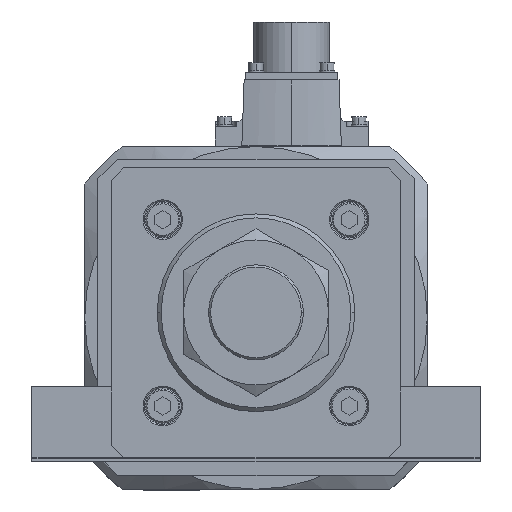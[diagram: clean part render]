
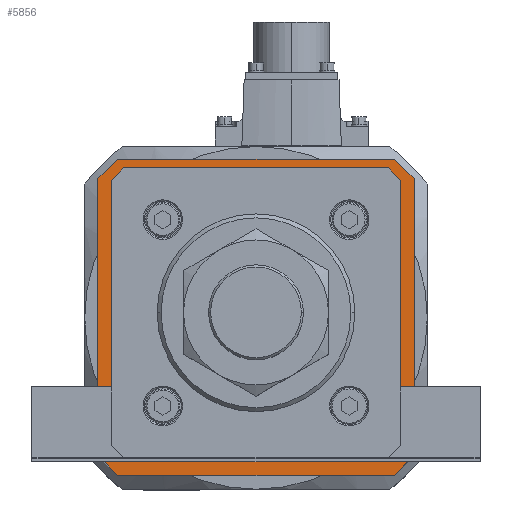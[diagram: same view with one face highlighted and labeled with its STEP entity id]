
A CAD part, top view. The second image highlights one B-rep face of the part: STEP entity #5856.
In plain terms, the highlighted planar face has unit normal (0, 0, 1).
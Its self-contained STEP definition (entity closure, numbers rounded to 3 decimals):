
#506 = EDGE_CURVE ( 'NONE', #34887, #1520, #12870, .T. ) ;
#641 = CARTESIAN_POINT ( 'NONE',  ( -53.5, 49.8, -119. ) ) ;
#817 = CARTESIAN_POINT ( 'NONE',  ( 49.593, 53.5, -119. ) ) ;
#1520 = VERTEX_POINT ( 'NONE', #9403 ) ;
#1736 = EDGE_CURVE ( 'NONE', #15058, #17121, #15486, .T. ) ;
#1876 = CARTESIAN_POINT ( 'NONE',  ( 60., -52.5, -119. ) ) ;
#2074 = VERTEX_POINT ( 'NONE', #33497 ) ;
#2153 = CARTESIAN_POINT ( 'NONE',  ( 49.593, -53.5, -119. ) ) ;
#2263 = LINE ( 'NONE', #15033, #15498 ) ;
#2697 = EDGE_CURVE ( 'NONE', #18162, #6041, #25908, .T. ) ;
#3153 = CARTESIAN_POINT ( 'NONE',  ( -52.5, 60., -119. ) ) ;
#3295 = EDGE_CURVE ( 'NONE', #6041, #21955, #34930, .T. ) ;
#3377 = CARTESIAN_POINT ( 'NONE',  ( 53.5, 49.593, -119. ) ) ;
#3651 = EDGE_CURVE ( 'NONE', #25057, #4762, #23264, .T. ) ;
#3952 = LINE ( 'NONE', #27964, #24486 ) ;
#4386 = EDGE_CURVE ( 'NONE', #34499, #2074, #23231, .T. ) ;
#4513 = LINE ( 'NONE', #11940, #34589 ) ;
#4648 = EDGE_LOOP ( 'NONE', ( #4942, #9744, #6234, #7280, #34024, #11029, #26571, #26590 ) ) ;
#4762 = VERTEX_POINT ( 'NONE', #3153 ) ;
#4900 = DIRECTION ( 'NONE',  ( -1., 0., 0. ) ) ;
#4942 = ORIENTED_EDGE ( 'NONE', *, *, #27240, .T. ) ;
#5138 = VECTOR ( 'NONE', #11739, 1000. ) ;
#5355 = CARTESIAN_POINT ( 'NONE',  ( 52.5, 60., -119. ) ) ;
#5764 = DIRECTION ( 'NONE',  ( -0.707, 0.707, 0. ) ) ;
#5856 = ADVANCED_FACE ( 'NONE', ( #12712, #31808 ), #22538, .T. ) ;
#5955 = DIRECTION ( 'NONE',  ( 0., 1., 0. ) ) ;
#6041 = VERTEX_POINT ( 'NONE', #3377 ) ;
#6074 = LINE ( 'NONE', #641, #27944 ) ;
#6234 = ORIENTED_EDGE ( 'NONE', *, *, #3295, .T. ) ;
#6451 = VERTEX_POINT ( 'NONE', #29545 ) ;
#6697 = CARTESIAN_POINT ( 'NONE',  ( 60., 52.5, -119. ) ) ;
#7280 = ORIENTED_EDGE ( 'NONE', *, *, #22179, .T. ) ;
#7783 = DIRECTION ( 'NONE',  ( 0., 0., 1. ) ) ;
#7833 = CARTESIAN_POINT ( 'NONE',  ( -53.5, 49.593, -119. ) ) ;
#8073 = DIRECTION ( 'NONE',  ( 1., 0., 0. ) ) ;
#9168 = VECTOR ( 'NONE', #26868, 1000. ) ;
#9403 = CARTESIAN_POINT ( 'NONE',  ( -60., -52.5, -119. ) ) ;
#9744 = ORIENTED_EDGE ( 'NONE', *, *, #2697, .T. ) ;
#9981 = VERTEX_POINT ( 'NONE', #35765 ) ;
#9994 = VECTOR ( 'NONE', #18880, 1000. ) ;
#10032 = VECTOR ( 'NONE', #18535, 1000. ) ;
#10075 = CARTESIAN_POINT ( 'NONE',  ( 53.5, -49.8, -119. ) ) ;
#10144 = DIRECTION ( 'NONE',  ( 0.707, -0.707, 0. ) ) ;
#10234 = VECTOR ( 'NONE', #24164, 1000. ) ;
#11029 = ORIENTED_EDGE ( 'NONE', *, *, #24365, .T. ) ;
#11203 = LINE ( 'NONE', #33245, #20758 ) ;
#11641 = CARTESIAN_POINT ( 'NONE',  ( 53.5, -49.593, -119. ) ) ;
#11739 = DIRECTION ( 'NONE',  ( -0.707, 0.707, 0. ) ) ;
#11940 = CARTESIAN_POINT ( 'NONE',  ( 49.8, 53.5, -119. ) ) ;
#12712 = FACE_BOUND ( 'NONE', #4648, .T. ) ;
#12870 = LINE ( 'NONE', #31758, #15595 ) ;
#12941 = ORIENTED_EDGE ( 'NONE', *, *, #3651, .F. ) ;
#13082 = DIRECTION ( 'NONE',  ( 0., -1., 0. ) ) ;
#13111 = EDGE_LOOP ( 'NONE', ( #26775, #12941, #35735, #31341, #18636, #28144, #36238, #31431 ) ) ;
#14094 = VECTOR ( 'NONE', #8073, 1000. ) ;
#14698 = EDGE_CURVE ( 'NONE', #21756, #18085, #6074, .T. ) ;
#15033 = CARTESIAN_POINT ( 'NONE',  ( -60., 52.5, -119. ) ) ;
#15058 = VERTEX_POINT ( 'NONE', #1876 ) ;
#15486 = LINE ( 'NONE', #35707, #10032 ) ;
#15498 = VECTOR ( 'NONE', #5955, 1000. ) ;
#15595 = VECTOR ( 'NONE', #5764, 1000. ) ;
#15719 = VECTOR ( 'NONE', #30886, 1000. ) ;
#15950 = CARTESIAN_POINT ( 'NONE',  ( 53.646, 49.446, -119. ) ) ;
#16363 = CARTESIAN_POINT ( 'NONE',  ( -60., 52.5, -119. ) ) ;
#16750 = AXIS2_PLACEMENT_3D ( 'NONE', #36813, #7783, #33596 ) ;
#16776 = CARTESIAN_POINT ( 'NONE',  ( -49.446, 53.646, -119. ) ) ;
#17121 = VERTEX_POINT ( 'NONE', #23688 ) ;
#18085 = VERTEX_POINT ( 'NONE', #7833 ) ;
#18162 = VERTEX_POINT ( 'NONE', #817 ) ;
#18535 = DIRECTION ( 'NONE',  ( -0.707, -0.707, 0. ) ) ;
#18636 = ORIENTED_EDGE ( 'NONE', *, *, #29743, .F. ) ;
#18748 = DIRECTION ( 'NONE',  ( -0.707, -0.707, 0. ) ) ;
#18880 = DIRECTION ( 'NONE',  ( 0.707, -0.707, 0. ) ) ;
#19240 = EDGE_CURVE ( 'NONE', #1520, #25057, #2263, .T. ) ;
#20203 = CARTESIAN_POINT ( 'NONE',  ( 60., 52.5, -119. ) ) ;
#20621 = CARTESIAN_POINT ( 'NONE',  ( -53.646, -49.446, -119. ) ) ;
#20758 = VECTOR ( 'NONE', #18748, 1000. ) ;
#20995 = CARTESIAN_POINT ( 'NONE',  ( -52.5, 60., -119. ) ) ;
#21142 = LINE ( 'NONE', #6697, #10234 ) ;
#21147 = DIRECTION ( 'NONE',  ( 0., 1., 0. ) ) ;
#21756 = VERTEX_POINT ( 'NONE', #36218 ) ;
#21772 = EDGE_CURVE ( 'NONE', #6451, #28787, #24883, .T. ) ;
#21955 = VERTEX_POINT ( 'NONE', #11641 ) ;
#21993 = DIRECTION ( 'NONE',  ( -1., 0., 0. ) ) ;
#22179 = EDGE_CURVE ( 'NONE', #21955, #34499, #11203, .T. ) ;
#22538 = PLANE ( 'NONE',  #16750 ) ;
#22854 = EDGE_CURVE ( 'NONE', #28787, #15058, #21142, .T. ) ;
#23231 = LINE ( 'NONE', #27847, #36422 ) ;
#23264 = LINE ( 'NONE', #20995, #9168 ) ;
#23688 = CARTESIAN_POINT ( 'NONE',  ( 52.5, -60., -119. ) ) ;
#23716 = EDGE_CURVE ( 'NONE', #4762, #6451, #35052, .T. ) ;
#24164 = DIRECTION ( 'NONE',  ( 0., -1., 0. ) ) ;
#24365 = EDGE_CURVE ( 'NONE', #2074, #21756, #29306, .T. ) ;
#24486 = VECTOR ( 'NONE', #21993, 1000. ) ;
#24883 = LINE ( 'NONE', #33623, #26247 ) ;
#25057 = VERTEX_POINT ( 'NONE', #16363 ) ;
#25729 = LINE ( 'NONE', #16776, #15719 ) ;
#25908 = LINE ( 'NONE', #15950, #9994 ) ;
#26247 = VECTOR ( 'NONE', #10144, 1000. ) ;
#26571 = ORIENTED_EDGE ( 'NONE', *, *, #14698, .T. ) ;
#26590 = ORIENTED_EDGE ( 'NONE', *, *, #35267, .T. ) ;
#26775 = ORIENTED_EDGE ( 'NONE', *, *, #23716, .F. ) ;
#26868 = DIRECTION ( 'NONE',  ( 0.707, 0.707, 0. ) ) ;
#27211 = VECTOR ( 'NONE', #13082, 1000. ) ;
#27240 = EDGE_CURVE ( 'NONE', #9981, #18162, #4513, .T. ) ;
#27847 = CARTESIAN_POINT ( 'NONE',  ( -49.8, -53.5, -119. ) ) ;
#27944 = VECTOR ( 'NONE', #21147, 1000. ) ;
#27964 = CARTESIAN_POINT ( 'NONE',  ( 52.5, -60., -119. ) ) ;
#28144 = ORIENTED_EDGE ( 'NONE', *, *, #1736, .F. ) ;
#28787 = VERTEX_POINT ( 'NONE', #20203 ) ;
#29306 = LINE ( 'NONE', #20621, #5138 ) ;
#29545 = CARTESIAN_POINT ( 'NONE',  ( 52.5, 60., -119. ) ) ;
#29743 = EDGE_CURVE ( 'NONE', #17121, #34887, #3952, .T. ) ;
#30886 = DIRECTION ( 'NONE',  ( 0.707, 0.707, 0. ) ) ;
#31341 = ORIENTED_EDGE ( 'NONE', *, *, #506, .F. ) ;
#31431 = ORIENTED_EDGE ( 'NONE', *, *, #21772, .F. ) ;
#31758 = CARTESIAN_POINT ( 'NONE',  ( -52.5, -60., -119. ) ) ;
#31808 = FACE_OUTER_BOUND ( 'NONE', #13111, .T. ) ;
#32085 = CARTESIAN_POINT ( 'NONE',  ( -52.5, -60., -119. ) ) ;
#32295 = DIRECTION ( 'NONE',  ( 1., 0., 0. ) ) ;
#33245 = CARTESIAN_POINT ( 'NONE',  ( 49.446, -53.646, -119. ) ) ;
#33497 = CARTESIAN_POINT ( 'NONE',  ( -49.593, -53.5, -119. ) ) ;
#33596 = DIRECTION ( 'NONE',  ( 1., 0., 0. ) ) ;
#33623 = CARTESIAN_POINT ( 'NONE',  ( 60., 52.5, -119. ) ) ;
#34024 = ORIENTED_EDGE ( 'NONE', *, *, #4386, .T. ) ;
#34499 = VERTEX_POINT ( 'NONE', #2153 ) ;
#34589 = VECTOR ( 'NONE', #32295, 1000. ) ;
#34887 = VERTEX_POINT ( 'NONE', #32085 ) ;
#34930 = LINE ( 'NONE', #10075, #27211 ) ;
#35052 = LINE ( 'NONE', #5355, #14094 ) ;
#35267 = EDGE_CURVE ( 'NONE', #18085, #9981, #25729, .T. ) ;
#35707 = CARTESIAN_POINT ( 'NONE',  ( 60., -52.5, -119. ) ) ;
#35735 = ORIENTED_EDGE ( 'NONE', *, *, #19240, .F. ) ;
#35765 = CARTESIAN_POINT ( 'NONE',  ( -49.593, 53.5, -119. ) ) ;
#36218 = CARTESIAN_POINT ( 'NONE',  ( -53.5, -49.593, -119. ) ) ;
#36238 = ORIENTED_EDGE ( 'NONE', *, *, #22854, .F. ) ;
#36422 = VECTOR ( 'NONE', #4900, 1000. ) ;
#36813 = CARTESIAN_POINT ( 'NONE',  ( 0., 0., -119. ) ) ;
